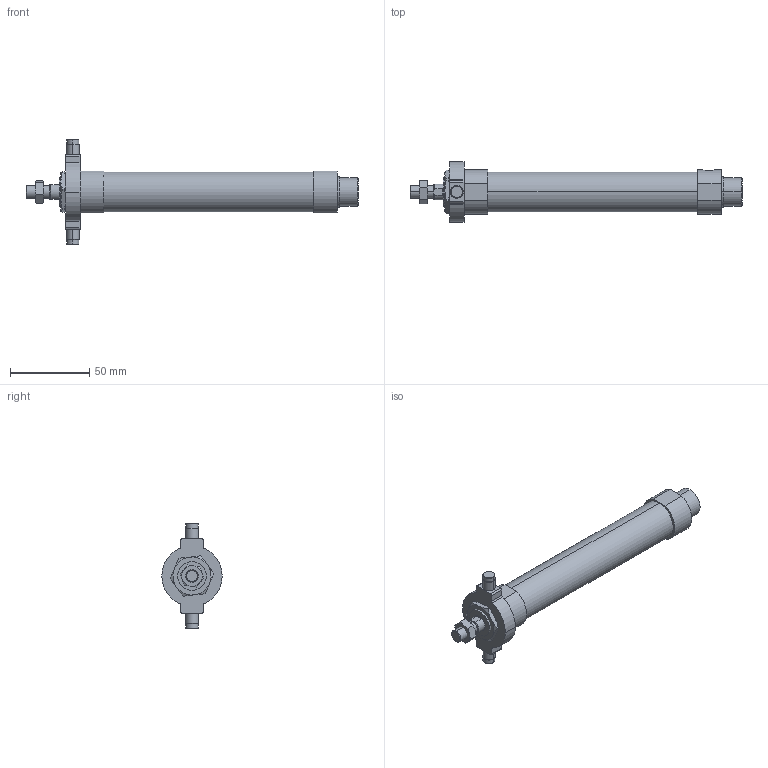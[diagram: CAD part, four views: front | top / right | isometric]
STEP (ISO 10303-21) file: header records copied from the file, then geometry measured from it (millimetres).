
FILE_DESCRIPTION (( 'STEP AP203' ), '1' );
FILE_NAME ('J#1-20-50-T.STEP', '2016-03-08T06:45:17', ( '' ), ( '' ), 'SwSTEP 2.0', 'SolidWorks 2014', '' );
FILE_SCHEMA (( 'CONFIG_CONTROL_DESIGN' ));
Length unit declared in the file: millimetre
Products named in the file (5): J#1-20-50-T; J#2-20-T; J#1-20-50
Assembly tree (4 placements, depth 2):
  J#1-20-50-T
    J#1-20-50
    (unnamed)
    (unnamed)
    J#2-20-T
Bounding box: 209 x 38 x 66 mm (x, y, z)
Volume: 101182.2 mm3; surface area: 22491.2 mm2
Topology: 4 solids, 4 shells, 128 faces, 285 edges, 176 vertices
Faces by surface type: cylinder 45, plane 45, torus 24, cone 14
Entity records: 4356 total; most frequent: CARTESIAN_POINT 986, DIRECTION 627, ORIENTED_EDGE 570, EDGE_CURVE 285, AXIS2_PLACEMENT_3D 261, VERTEX_POINT 176, EDGE_LOOP 145, FACE_OUTER_BOUND 128
